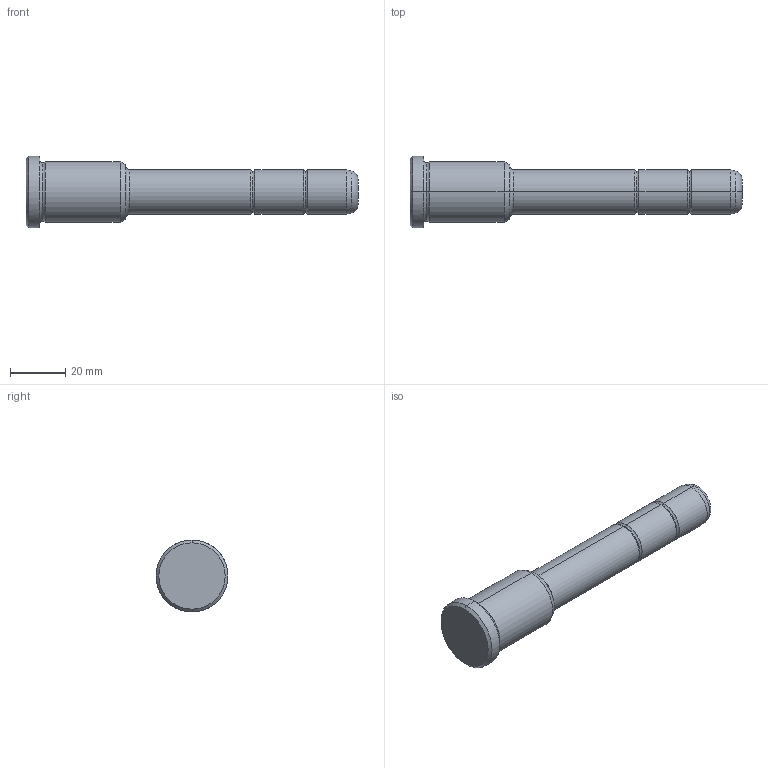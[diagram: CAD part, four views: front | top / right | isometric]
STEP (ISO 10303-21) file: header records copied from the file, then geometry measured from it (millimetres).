
FILE_DESCRIPTION(('CATIA V5 STEP Exchange'),'2;1');
FILE_NAME('C:\Users\Utente\Desktop\IO LAVORO\3D X SITO CF\X SITO\PLASTICA\351\351-16X36X120.stp','2021-08-18T11:36:17+00:00',('none'),('none'),'CATIA Version 5 Release 20 GA (IN-10)','CATIA V5 STEP AP203','none');
FILE_SCHEMA(('CONFIG_CONTROL_DESIGN'));
Length unit declared in the file: millimetre
Products named in the file (1): 351-16X36X120
Bounding box: 120 x 26 x 26 mm (x, y, z)
Volume: 30988.6 mm3; surface area: 7656.5 mm2
Topology: 1 solids, 1 shells, 36 faces, 102 edges, 70 vertices
Faces by surface type: torus 16, cylinder 10, cone 6, plane 4
Entity records: 1292 total; most frequent: CARTESIAN_POINT 321, ORIENTED_EDGE 204, DIRECTION 166, AXIS2_PLACEMENT_3D 115, EDGE_CURVE 102, CIRCLE 78, VERTEX_POINT 70, EDGE_LOOP 38
